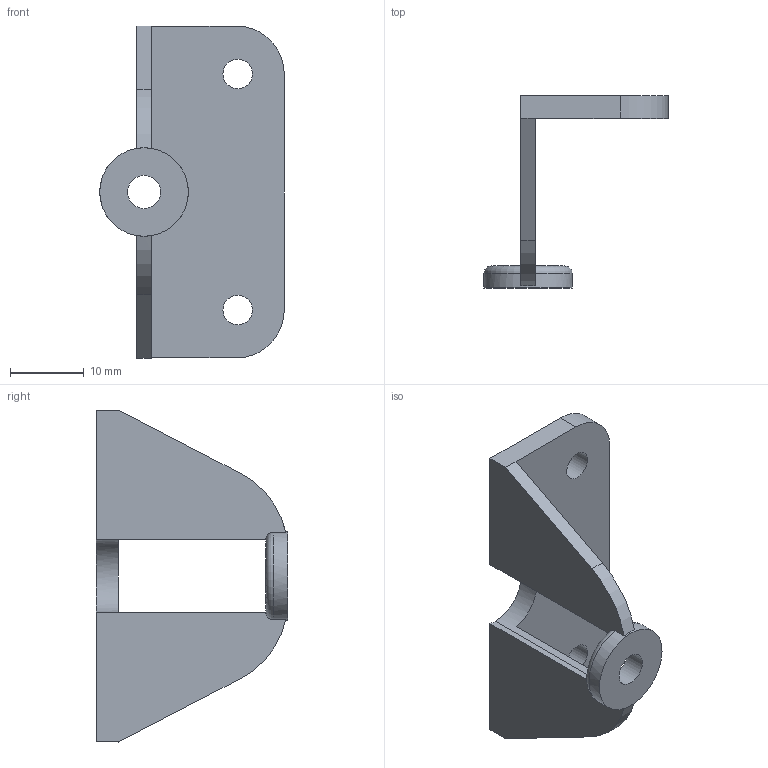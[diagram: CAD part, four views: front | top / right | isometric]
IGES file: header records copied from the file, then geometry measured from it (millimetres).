
Start section: Data from Parasolid IGES Translator 15.0.47, Copyright(c) 2006 Siemens P LM Software. All Rights Reserved.
Global section: file name: 115365.igs; native system:  By UGS Corp.; preprocessor: XPlus GENERIC/IGES 3.0; author: Noname; organization: Noname; date: 20140122.095134; units: millimetre
Bounding box: 25 x 26 x 45 mm (x, y, z)
Surface area: 3559.1 mm2 (no closed solid volume)
Topology: 0 solids, 0 shells, 25 faces, 138 edges, 135 vertices
Faces by surface type: extrusion 13, revolution 12
